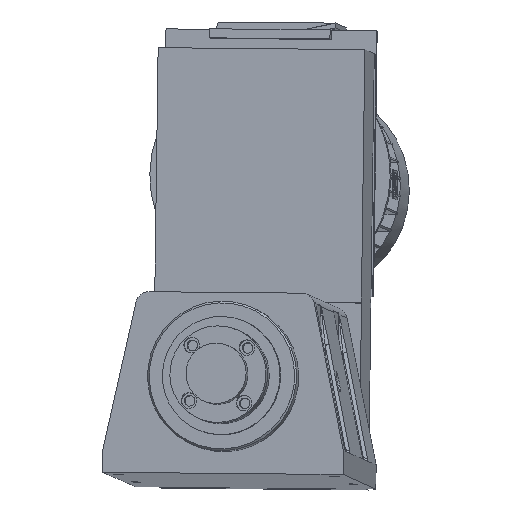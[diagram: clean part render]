
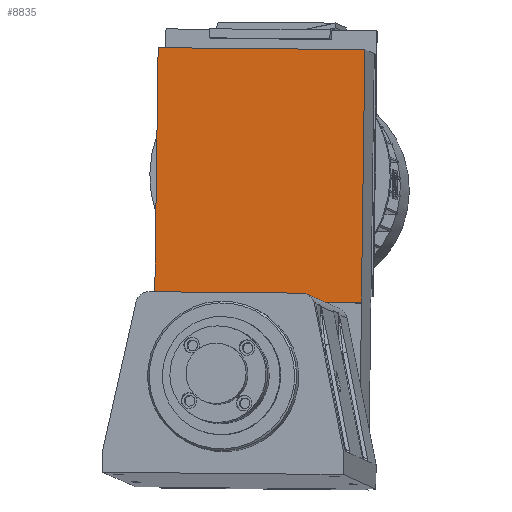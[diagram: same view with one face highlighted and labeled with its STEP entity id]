
A CAD part, front view. The second image highlights one B-rep face of the part: STEP entity #8835.
In plain terms, the highlighted planar face has unit normal (-0.098, -0.994, 0.043).
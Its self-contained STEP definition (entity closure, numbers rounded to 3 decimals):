
#8796=CARTESIAN_POINT('',(205.957,269.9,839.899));
#8797=DIRECTION('',(-0.098,-0.994,0.043));
#8798=DIRECTION('',(0.995,-0.099,-0.009));
#8799=AXIS2_PLACEMENT_3D('',#8796,#8797,#8798);
#8800=PLANE('',#8799);
#8801=CARTESIAN_POINT('',(-136.346,303.868,843.133));
#8802=VERTEX_POINT('',#8801);
#8803=CARTESIAN_POINT('',(-142.076,286.087,423.549));
#8804=VERTEX_POINT('',#8803);
#8805=CARTESIAN_POINT('',(-136.346,303.868,843.133));
#8806=DIRECTION('',(-0.014,-0.042,-0.999));
#8807=VECTOR('',#8806,420.);
#8808=LINE('',#8805,#8807);
#8809=EDGE_CURVE('',#8802,#8804,#8808,.T.);
#8810=ORIENTED_EDGE('',*,*,#8809,.T.);
#8811=CARTESIAN_POINT('',(200.228,252.119,420.314));
#8812=VERTEX_POINT('',#8811);
#8813=CARTESIAN_POINT('',(200.228,252.119,420.314));
#8814=DIRECTION('',(-0.995,0.099,0.009));
#8815=VECTOR('',#8814,344.0);
#8816=LINE('',#8813,#8815);
#8817=EDGE_CURVE('',#8812,#8804,#8816,.T.);
#8818=ORIENTED_EDGE('',*,*,#8817,.F.);
#8819=CARTESIAN_POINT('',(205.957,269.9,839.899));
#8820=VERTEX_POINT('',#8819);
#8821=CARTESIAN_POINT('',(205.957,269.9,839.899));
#8822=DIRECTION('',(-0.014,-0.042,-0.999));
#8823=VECTOR('',#8822,420.);
#8824=LINE('',#8821,#8823);
#8825=EDGE_CURVE('',#8820,#8812,#8824,.T.);
#8826=ORIENTED_EDGE('',*,*,#8825,.F.);
#8827=CARTESIAN_POINT('',(205.957,269.9,839.899));
#8828=DIRECTION('',(-0.995,0.099,0.009));
#8829=VECTOR('',#8828,344.0);
#8830=LINE('',#8827,#8829);
#8831=EDGE_CURVE('',#8820,#8802,#8830,.T.);
#8832=ORIENTED_EDGE('',*,*,#8831,.T.);
#8833=EDGE_LOOP('',(#8810,#8818,#8826,#8832));
#8834=FACE_OUTER_BOUND('',#8833,.T.);
#8835=ADVANCED_FACE('',(#8834),#8800,.T.);
